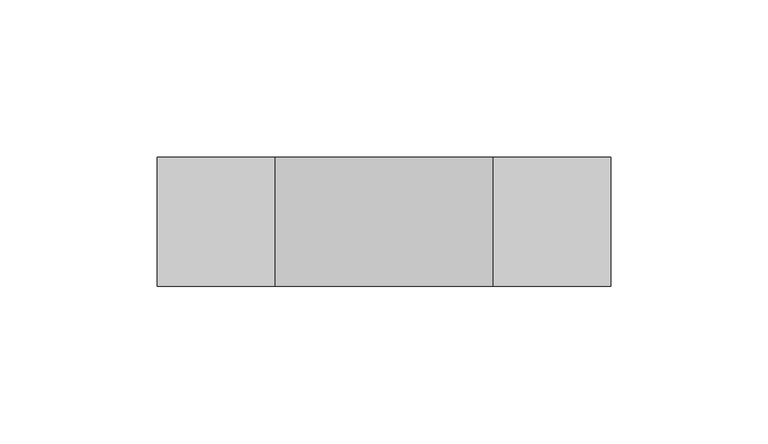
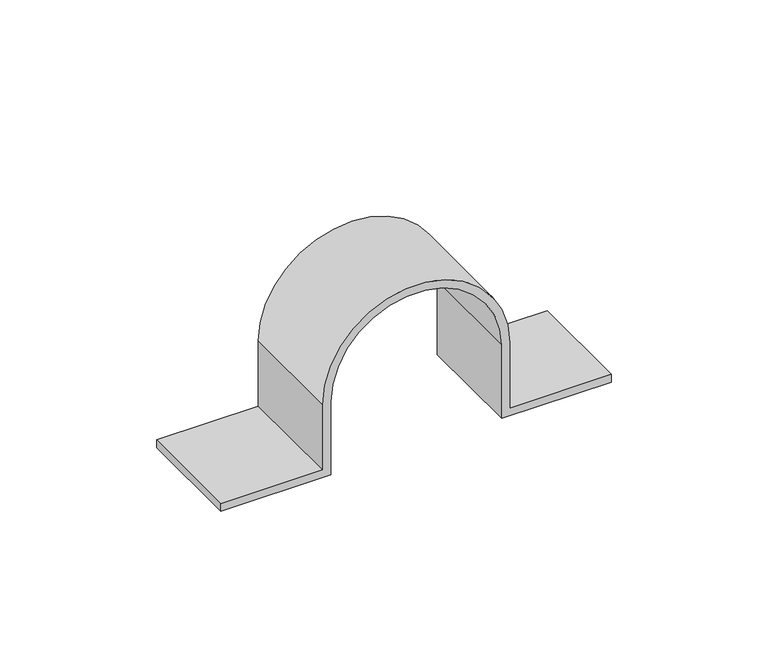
"""IFC4 building model written with IfcOpenShell, lengths in millimetres: proxy geometry."""

from ifc_helpers import new_model, si_unit, point, frame, frame_2d, origin, place, context, project, spatial, polyline, circle_curve, trimmed, segment, composite_curve, outline, extrude, source, transform, mapped, element, save


def generic_models_82b5c271(model_context):
    return source(origin(), model_context, "Body", "SweptSolid", [
        extrude(outline(composite_curve([segment(polyline([(0.0, 31.5), (0.0, 72.0), (3.0, 72.0), (3.0, 34.5), (28.5, 34.5)]), True, "CONTINUOUS"), segment(trimmed(circle_curve(frame_2d((28.5, 0.0)), 34.5), [point((28.5, 34.5))], [point((28.5, -34.5))], False, "CARTESIAN"), True, "CONTINUOUS"), segment(polyline([(28.5, -34.5), (3.0, -34.5), (3.0, -72.0), (0.0, -72.0), (0.0, -31.5), (28.5, -31.5)]), True, "CONTINUOUS"), segment(trimmed(circle_curve(frame_2d((28.5, 0.0)), 31.5), [point((28.5, -31.5))], [point((28.5, 31.5))], True, "CARTESIAN"), True, "CONTINUOUS"), segment(polyline([(28.5, 31.5), (0.0, 31.5)]), True, "CONTINUOUS")], self_intersect=False)), frame((0.0, -20.5, 0.0), z_axis=(0.0, 1.0, 0.0), x_axis=(0.0, 0.0, 1.0)), (0.0, 0.0, 1.0), 41.0),
    ])


if __name__ == "__main__":
    model = new_model("IFC4")
    model_context = context("Model", 3, world=origin())
    ifc_project = project(units=[si_unit("LENGTHUNIT", "METRE", prefix="MILLI")], contexts=[model_context])
    site = spatial("IfcSite", under=ifc_project)
    building = spatial("IfcBuilding", under=site)
    placement = place(None, origin())
    generic_models_shape = generic_models_82b5c271(model_context)
    element("IfcBuildingElementProxy", 1, Name="BCP_Conduit clamp-Basorfix : Basorfix BCP 2\" GC", ObjectType="BCP_Conduit clamp-Basorfix : Basorfix BCP 2\" GC", at=placement, inside=building, context=model_context, shape_type="MappedRepresentation", body=[
        mapped(generic_models_shape, transform((0.0, 0.0, 0.0), x_axis=(1.0, 0.0, 0.0), y_axis=(0.0, 1.0, 0.0), z_axis=(0.0, 0.0, 1.0))),
    ])
    save(model, "model.ifc")
